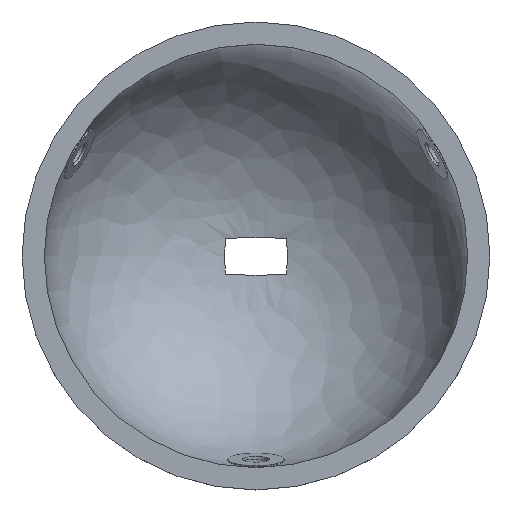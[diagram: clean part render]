
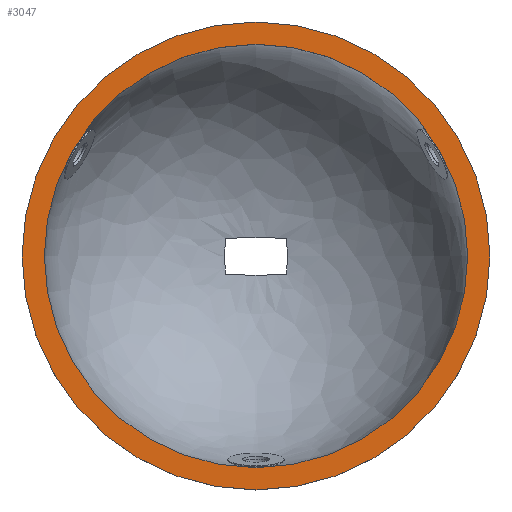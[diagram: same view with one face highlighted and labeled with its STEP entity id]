
A CAD part, top view. The second image highlights one B-rep face of the part: STEP entity #3047.
In plain terms, the highlighted planar face has unit normal (0, 0, 1).
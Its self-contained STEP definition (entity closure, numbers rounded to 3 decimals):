
#704 = CYLINDRICAL_SURFACE('',#705,28.5);
#705 = AXIS2_PLACEMENT_3D('',#706,#707,#708);
#706 = CARTESIAN_POINT('',(0.,0.,-4.));
#707 = DIRECTION('',(0.,0.,1.));
#708 = DIRECTION('',(1.,0.,-0.));
#2355 = VERTEX_POINT('',#2356);
#2356 = CARTESIAN_POINT('',(28.5,0.,0.));
#2377 = EDGE_CURVE('',#2355,#2355,#2378,.T.);
#2378 = SURFACE_CURVE('',#2379,(#2384,#2391),.PCURVE_S1.);
#2379 = CIRCLE('',#2380,28.5);
#2380 = AXIS2_PLACEMENT_3D('',#2381,#2382,#2383);
#2381 = CARTESIAN_POINT('',(0.,0.,0.));
#2382 = DIRECTION('',(0.,0.,1.));
#2383 = DIRECTION('',(1.,0.,-0.));
#2384 = PCURVE('',#704,#2385);
#2385 = DEFINITIONAL_REPRESENTATION('',(#2386),#2390);
#2386 = LINE('',#2387,#2388);
#2387 = CARTESIAN_POINT('',(0.,4.));
#2388 = VECTOR('',#2389,1.);
#2389 = DIRECTION('',(1.,0.));
#2390 = ( GEOMETRIC_REPRESENTATION_CONTEXT(2) 
PARAMETRIC_REPRESENTATION_CONTEXT() REPRESENTATION_CONTEXT('2D SPACE',''
  ) );
#2391 = PCURVE('',#2392,#2397);
#2392 = PLANE('',#2393);
#2393 = AXIS2_PLACEMENT_3D('',#2394,#2395,#2396);
#2394 = CARTESIAN_POINT('',(0.,0.,0.));
#2395 = DIRECTION('',(0.,0.,1.));
#2396 = DIRECTION('',(1.,0.,-0.));
#2397 = DEFINITIONAL_REPRESENTATION('',(#2398),#2402);
#2398 = CIRCLE('',#2399,28.5);
#2399 = AXIS2_PLACEMENT_2D('',#2400,#2401);
#2400 = CARTESIAN_POINT('',(0.,0.));
#2401 = DIRECTION('',(1.,-0.));
#2402 = ( GEOMETRIC_REPRESENTATION_CONTEXT(2) 
PARAMETRIC_REPRESENTATION_CONTEXT() REPRESENTATION_CONTEXT('2D SPACE',''
  ) );
#3047 = ADVANCED_FACE('',(#3048,#3051),#2392,.T.);
#3048 = FACE_BOUND('',#3049,.F.);
#3049 = EDGE_LOOP('',(#3050));
#3050 = ORIENTED_EDGE('',*,*,#2377,.T.);
#3051 = FACE_BOUND('',#3052,.F.);
#3052 = EDGE_LOOP('',(#3053));
#3053 = ORIENTED_EDGE('',*,*,#3054,.F.);
#3054 = EDGE_CURVE('',#3055,#3055,#3057,.T.);
#3055 = VERTEX_POINT('',#3056);
#3056 = CARTESIAN_POINT('',(31.5,0.,0.));
#3057 = SURFACE_CURVE('',#3058,(#3063,#3070),.PCURVE_S1.);
#3058 = CIRCLE('',#3059,31.5);
#3059 = AXIS2_PLACEMENT_3D('',#3060,#3061,#3062);
#3060 = CARTESIAN_POINT('',(0.,0.,0.));
#3061 = DIRECTION('',(0.,0.,1.));
#3062 = DIRECTION('',(1.,0.,-0.));
#3063 = PCURVE('',#2392,#3064);
#3064 = DEFINITIONAL_REPRESENTATION('',(#3065),#3069);
#3065 = CIRCLE('',#3066,31.5);
#3066 = AXIS2_PLACEMENT_2D('',#3067,#3068);
#3067 = CARTESIAN_POINT('',(0.,0.));
#3068 = DIRECTION('',(1.,-0.));
#3069 = ( GEOMETRIC_REPRESENTATION_CONTEXT(2) 
PARAMETRIC_REPRESENTATION_CONTEXT() REPRESENTATION_CONTEXT('2D SPACE',''
  ) );
#3070 = PCURVE('',#3071,#3076);
#3071 = CYLINDRICAL_SURFACE('',#3072,31.5);
#3072 = AXIS2_PLACEMENT_3D('',#3073,#3074,#3075);
#3073 = CARTESIAN_POINT('',(0.,0.,0.));
#3074 = DIRECTION('',(-0.,-0.,-1.));
#3075 = DIRECTION('',(1.,0.,0.));
#3076 = DEFINITIONAL_REPRESENTATION('',(#3077),#3081);
#3077 = LINE('',#3078,#3079);
#3078 = CARTESIAN_POINT('',(-0.,0.));
#3079 = VECTOR('',#3080,1.);
#3080 = DIRECTION('',(-1.,0.));
#3081 = ( GEOMETRIC_REPRESENTATION_CONTEXT(2) 
PARAMETRIC_REPRESENTATION_CONTEXT() REPRESENTATION_CONTEXT('2D SPACE',''
  ) );
